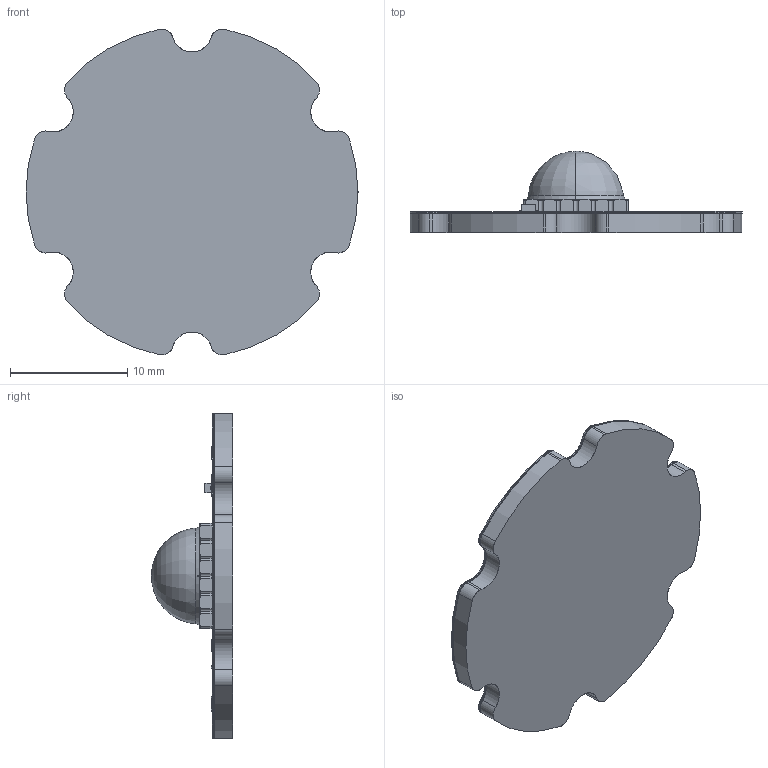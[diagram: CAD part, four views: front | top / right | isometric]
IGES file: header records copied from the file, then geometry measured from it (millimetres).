
Start section: SolidWorks IGES file using analytic representation for surfaces
Global section: file name: C:\P-Gold\Projects\MCPCBs\For_09x09_12die_LZC\1900-0064-BGQ\Apps(LZC-70WHXX)\LZC-70WHXX-P3_RevA.IGS; native system: SolidWorks 2011; preprocessor: SolidWorks 2011; author: dadebiyi; date: 120919.112925; units: millimetre
Bounding box: 28.28 x 6.91 x 27.77 mm (x, y, z)
Surface area: 1846.9 mm2 (no closed solid volume)
Topology: 0 solids, 0 shells, 1506 faces, 12816 edges, 12814 vertices
Faces by surface type: bspline 1161, revolution 345
